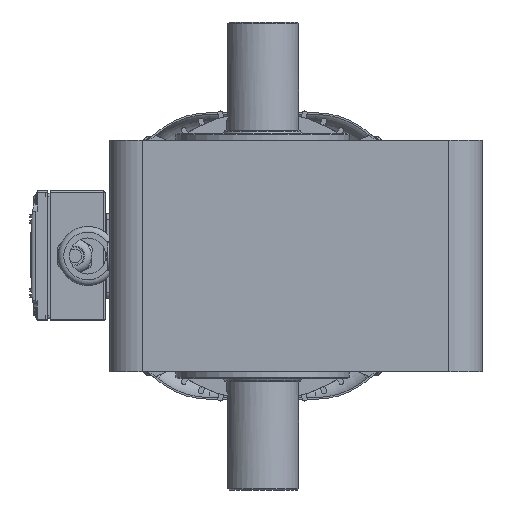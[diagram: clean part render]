
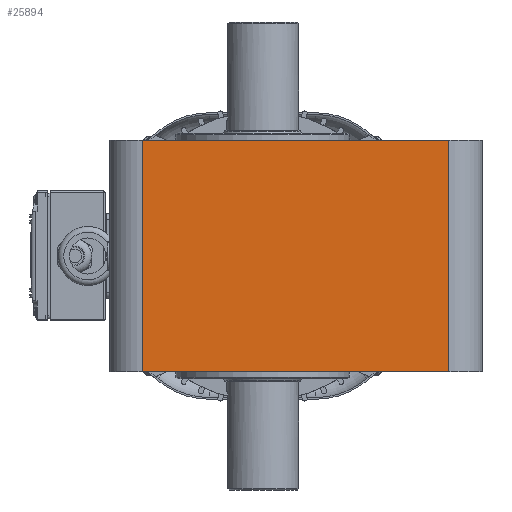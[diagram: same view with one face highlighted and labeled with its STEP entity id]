
A CAD part, left-side view. The second image highlights one B-rep face of the part: STEP entity #25894.
In plain terms, the highlighted planar face has unit normal (-1, 0, 0).
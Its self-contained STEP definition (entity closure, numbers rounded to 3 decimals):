
#838=PLANE('',#28491);
#1991=FACE_OUTER_BOUND('',#3539,.T.);
#3539=EDGE_LOOP('',(#20920,#20921,#20922,#20923));
#6927=LINE('',#44654,#8903);
#6954=LINE('',#44768,#8930);
#6955=LINE('',#44772,#8931);
#6956=LINE('',#44773,#8932);
#8903=VECTOR('',#34655,212.);
#8930=VECTOR('',#34774,160.);
#8931=VECTOR('',#34779,160.);
#8932=VECTOR('',#34780,212.);
#11622=VERTEX_POINT('',#44651);
#11623=VERTEX_POINT('',#44653);
#11664=VERTEX_POINT('',#44767);
#11665=VERTEX_POINT('',#44771);
#14880=EDGE_CURVE('',#11623,#11622,#6927,.T.);
#14935=EDGE_CURVE('',#11623,#11664,#6954,.T.);
#14937=EDGE_CURVE('',#11665,#11622,#6955,.T.);
#14938=EDGE_CURVE('',#11665,#11664,#6956,.T.);
#20920=ORIENTED_EDGE('',*,*,#14935,.F.);
#20921=ORIENTED_EDGE('',*,*,#14880,.T.);
#20922=ORIENTED_EDGE('',*,*,#14937,.F.);
#20923=ORIENTED_EDGE('',*,*,#14938,.T.);
#25894=ADVANCED_FACE('',(#1991),#838,.T.);
#28491=AXIS2_PLACEMENT_3D('',#44770,#34777,#34778);
#34655=DIRECTION('',(0.,1.,0.));
#34774=DIRECTION('',(0.,0.,-1.));
#34777=DIRECTION('center_axis',(-1.,0.,0.));
#34778=DIRECTION('ref_axis',(0.,0.,1.));
#34779=DIRECTION('',(0.,0.,1.));
#34780=DIRECTION('',(0.,-1.,0.));
#44651=CARTESIAN_POINT('',(-143.486,87.527,80.));
#44653=CARTESIAN_POINT('',(-143.486,-124.473,80.));
#44654=CARTESIAN_POINT('',(-143.486,-124.473,80.));
#44767=CARTESIAN_POINT('',(-143.486,-124.473,-80.));
#44768=CARTESIAN_POINT('',(-143.486,-124.473,80.));
#44770=CARTESIAN_POINT('Origin',(-143.486,-147.473,-80.));
#44771=CARTESIAN_POINT('',(-143.486,87.527,-80.));
#44772=CARTESIAN_POINT('',(-143.486,87.527,-80.));
#44773=CARTESIAN_POINT('',(-143.486,87.527,-80.));
